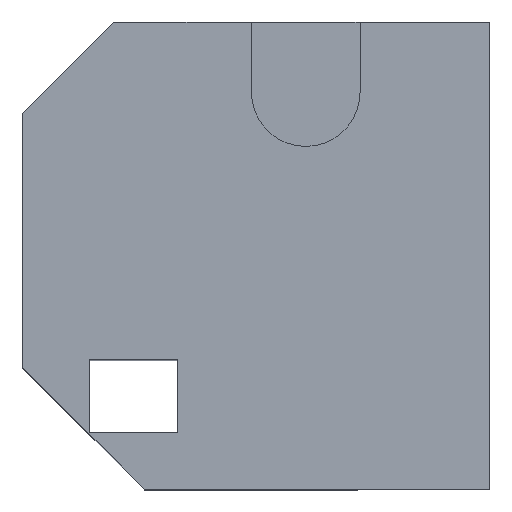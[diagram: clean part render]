
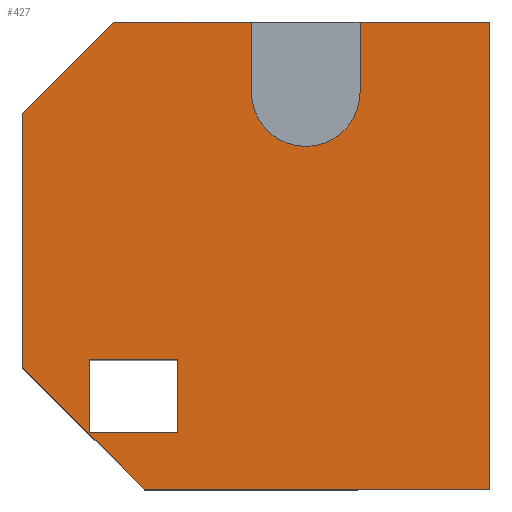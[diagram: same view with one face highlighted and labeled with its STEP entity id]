
A CAD part, top view. The second image highlights one B-rep face of the part: STEP entity #427.
In plain terms, the highlighted planar face has unit normal (0, 0, 1).
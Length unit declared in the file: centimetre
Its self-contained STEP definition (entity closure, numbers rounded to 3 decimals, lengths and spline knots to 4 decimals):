
#5 = VERTEX_POINT ( 'NONE', #660 ) ;
#6 = CARTESIAN_POINT ( 'NONE',  ( 1000., 0., 1000. ) ) ;
#10 = CARTESIAN_POINT ( 'NONE',  ( -402.4962, 402.4962, 1000. ) ) ;
#30 = CARTESIAN_POINT ( 'NONE',  ( 0., 1000., 1000. ) ) ;
#31 = VERTEX_POINT ( 'NONE', #600 ) ;
#38 = FACE_BOUND ( 'NONE', #308, .T. ) ;
#44 = DIRECTION ( 'NONE',  ( 1., 0., 0. ) ) ;
#64 = VERTEX_POINT ( 'NONE', #605 ) ;
#66 = AXIS2_PLACEMENT_3D ( 'NONE', #380, #699, #761 ) ;
#71 = CARTESIAN_POINT ( 'NONE',  ( 143.5168, 276.7577, 1000. ) ) ;
#99 = VECTOR ( 'NONE', #627, 100. ) ;
#102 = EDGE_CURVE ( 'NONE', #186, #573, #688, .T. ) ;
#105 = CARTESIAN_POINT ( 'NONE',  ( 490.2311, 849.8698, 1000. ) ) ;
#110 = CARTESIAN_POINT ( 'NONE',  ( 143.5168, 121.7002, 1000. ) ) ;
#112 = CARTESIAN_POINT ( 'NONE',  ( 722.6668, 849.8698, 1000. ) ) ;
#114 = ORIENTED_EDGE ( 'NONE', *, *, #102, .T. ) ;
#116 = VECTOR ( 'NONE', #825, 100. ) ;
#118 = VERTEX_POINT ( 'NONE', #112 ) ;
#123 = LINE ( 'NONE', #110, #484 ) ;
#128 = VERTEX_POINT ( 'NONE', #563 ) ;
#135 = ORIENTED_EDGE ( 'NONE', *, *, #474, .T. ) ;
#151 = EDGE_CURVE ( 'NONE', #577, #118, #583, .T. ) ;
#160 = CARTESIAN_POINT ( 'NONE',  ( 490.2311, 1000., 1000. ) ) ;
#166 = DIRECTION ( 'NONE',  ( 0., 0., 1. ) ) ;
#182 = ORIENTED_EDGE ( 'NONE', *, *, #738, .F. ) ;
#183 = CARTESIAN_POINT ( 'NONE',  ( 332.825, 121.7002, 1000. ) ) ;
#186 = VERTEX_POINT ( 'NONE', #821 ) ;
#187 = LINE ( 'NONE', #587, #364 ) ;
#192 = VECTOR ( 'NONE', #748, 100. ) ;
#193 = DIRECTION ( 'NONE',  ( -0.707, -0.707, 0. ) ) ;
#199 = CARTESIAN_POINT ( 'NONE',  ( 261.1192, 0., 1000. ) ) ;
#230 = EDGE_CURVE ( 'NONE', #118, #31, #291, .T. ) ;
#234 = EDGE_CURVE ( 'NONE', #521, #128, #349, .T. ) ;
#241 = VERTEX_POINT ( 'NONE', #674 ) ;
#243 = VECTOR ( 'NONE', #250, 100. ) ;
#244 = VECTOR ( 'NONE', #441, 100. ) ;
#250 = DIRECTION ( 'NONE',  ( -1., 0., 0. ) ) ;
#255 = ORIENTED_EDGE ( 'NONE', *, *, #743, .F. ) ;
#262 = DIRECTION ( 'NONE',  ( -1., 0., 0. ) ) ;
#285 = DIRECTION ( 'NONE',  ( 0., 1., 0. ) ) ;
#291 = LINE ( 'NONE', #478, #565 ) ;
#295 = PLANE ( 'NONE',  #66 ) ;
#308 = EDGE_LOOP ( 'NONE', ( #526, #642, #669, #182 ) ) ;
#322 = CARTESIAN_POINT ( 'NONE',  ( 490.2311, 849.8698, 1000. ) ) ;
#343 = EDGE_CURVE ( 'NONE', #128, #31, #624, .T. ) ;
#349 = LINE ( 'NONE', #809, #192 ) ;
#350 = VECTOR ( 'NONE', #193, 100. ) ;
#364 = VECTOR ( 'NONE', #397, 100. ) ;
#371 = DIRECTION ( 'NONE',  ( -1., 0., 0. ) ) ;
#373 = EDGE_LOOP ( 'NONE', ( #255, #135, #612, #664, #114, #762, #419, #652, #388, #466 ) ) ;
#380 = CARTESIAN_POINT ( 'NONE',  ( 0., 0., 1000. ) ) ;
#386 = LINE ( 'NONE', #10, #350 ) ;
#388 = ORIENTED_EDGE ( 'NONE', *, *, #230, .F. ) ;
#397 = DIRECTION ( 'NONE',  ( 0., -1., 0. ) ) ;
#398 = EDGE_CURVE ( 'NONE', #241, #581, #438, .T. ) ;
#419 = ORIENTED_EDGE ( 'NONE', *, *, #234, .T. ) ;
#427 = ADVANCED_FACE ( 'NONE', ( #38, #559 ), #295, .T. ) ;
#431 = CARTESIAN_POINT ( 'NONE',  ( 332.825, 276.7577, 1000. ) ) ;
#438 = LINE ( 'NONE', #512, #244 ) ;
#441 = DIRECTION ( 'NONE',  ( 0., -1., 0. ) ) ;
#452 = VERTEX_POINT ( 'NONE', #641 ) ;
#454 = EDGE_CURVE ( 'NONE', #573, #521, #564, .T. ) ;
#466 = ORIENTED_EDGE ( 'NONE', *, *, #151, .F. ) ;
#474 = EDGE_CURVE ( 'NONE', #676, #452, #580, .T. ) ;
#478 = CARTESIAN_POINT ( 'NONE',  ( 722.6668, 1000., 1000. ) ) ;
#484 = VECTOR ( 'NONE', #711, 100. ) ;
#502 = LINE ( 'NONE', #105, #116 ) ;
#507 = DIRECTION ( 'NONE',  ( 0., 1., 0. ) ) ;
#512 = CARTESIAN_POINT ( 'NONE',  ( 143.5168, 121.7002, 1000. ) ) ;
#521 = VERTEX_POINT ( 'NONE', #6 ) ;
#526 = ORIENTED_EDGE ( 'NONE', *, *, #398, .F. ) ;
#527 = CARTESIAN_POINT ( 'NONE',  ( 143.5168, 121.7002, 1000. ) ) ;
#533 = EDGE_CURVE ( 'NONE', #452, #5, #386, .T. ) ;
#555 = DIRECTION ( 'NONE',  ( -1., 0., 0. ) ) ;
#557 = EDGE_CURVE ( 'NONE', #838, #241, #665, .T. ) ;
#559 = FACE_OUTER_BOUND ( 'NONE', #373, .T. ) ;
#563 = CARTESIAN_POINT ( 'NONE',  ( 1000., 1000., 1000. ) ) ;
#564 = LINE ( 'NONE', #638, #805 ) ;
#565 = VECTOR ( 'NONE', #285, 100. ) ;
#573 = VERTEX_POINT ( 'NONE', #199 ) ;
#577 = VERTEX_POINT ( 'NONE', #322 ) ;
#579 = VECTOR ( 'NONE', #262, 100. ) ;
#580 = LINE ( 'NONE', #843, #243 ) ;
#581 = VERTEX_POINT ( 'NONE', #527 ) ;
#583 = CIRCLE ( 'NONE', #689, 116.2179 ) ;
#587 = CARTESIAN_POINT ( 'NONE',  ( 0., 1000., 1000. ) ) ;
#600 = CARTESIAN_POINT ( 'NONE',  ( 722.6668, 1000., 1000. ) ) ;
#605 = CARTESIAN_POINT ( 'NONE',  ( 332.825, 121.7002, 1000. ) ) ;
#607 = VECTOR ( 'NONE', #507, 100. ) ;
#612 = ORIENTED_EDGE ( 'NONE', *, *, #533, .T. ) ;
#624 = LINE ( 'NONE', #30, #635 ) ;
#627 = DIRECTION ( 'NONE',  ( 0.707, -0.707, 0. ) ) ;
#635 = VECTOR ( 'NONE', #555, 100. ) ;
#638 = CARTESIAN_POINT ( 'NONE',  ( 0., 0., 1000. ) ) ;
#641 = CARTESIAN_POINT ( 'NONE',  ( 195.0077, 1000., 1000. ) ) ;
#642 = ORIENTED_EDGE ( 'NONE', *, *, #557, .F. ) ;
#652 = ORIENTED_EDGE ( 'NONE', *, *, #343, .T. ) ;
#660 = CARTESIAN_POINT ( 'NONE',  ( 0., 804.9923, 1000. ) ) ;
#664 = ORIENTED_EDGE ( 'NONE', *, *, #850, .T. ) ;
#665 = LINE ( 'NONE', #71, #579 ) ;
#669 = ORIENTED_EDGE ( 'NONE', *, *, #788, .F. ) ;
#674 = CARTESIAN_POINT ( 'NONE',  ( 143.5168, 276.7577, 1000. ) ) ;
#676 = VERTEX_POINT ( 'NONE', #160 ) ;
#688 = LINE ( 'NONE', #693, #99 ) ;
#689 = AXIS2_PLACEMENT_3D ( 'NONE', #827, #166, #371 ) ;
#693 = CARTESIAN_POINT ( 'NONE',  ( 130.5596, 130.5596, 1000. ) ) ;
#699 = DIRECTION ( 'NONE',  ( 0., 0., 1. ) ) ;
#711 = DIRECTION ( 'NONE',  ( 1., 0., 0. ) ) ;
#738 = EDGE_CURVE ( 'NONE', #581, #64, #123, .T. ) ;
#743 = EDGE_CURVE ( 'NONE', #676, #577, #502, .T. ) ;
#748 = DIRECTION ( 'NONE',  ( 0., 1., 0. ) ) ;
#761 = DIRECTION ( 'NONE',  ( 1., 0., 0. ) ) ;
#762 = ORIENTED_EDGE ( 'NONE', *, *, #454, .T. ) ;
#773 = LINE ( 'NONE', #183, #607 ) ;
#788 = EDGE_CURVE ( 'NONE', #64, #838, #773, .T. ) ;
#805 = VECTOR ( 'NONE', #44, 100. ) ;
#809 = CARTESIAN_POINT ( 'NONE',  ( 1000., 1000., 1000. ) ) ;
#821 = CARTESIAN_POINT ( 'NONE',  ( 0., 261.1192, 1000. ) ) ;
#825 = DIRECTION ( 'NONE',  ( 0., -1., 0. ) ) ;
#827 = CARTESIAN_POINT ( 'NONE',  ( 606.449, 849.8698, 1000. ) ) ;
#838 = VERTEX_POINT ( 'NONE', #431 ) ;
#843 = CARTESIAN_POINT ( 'NONE',  ( 0., 1000., 1000. ) ) ;
#850 = EDGE_CURVE ( 'NONE', #5, #186, #187, .T. ) ;
